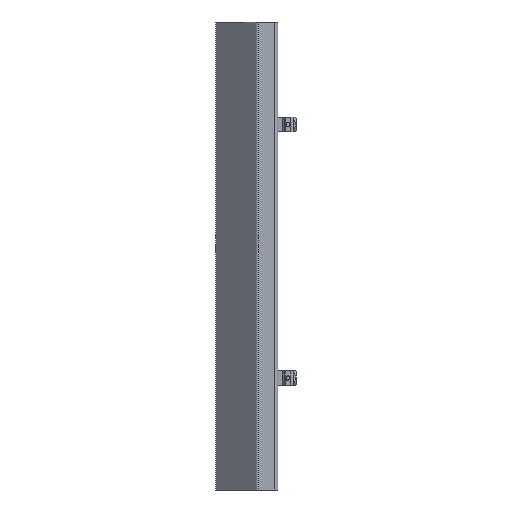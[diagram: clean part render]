
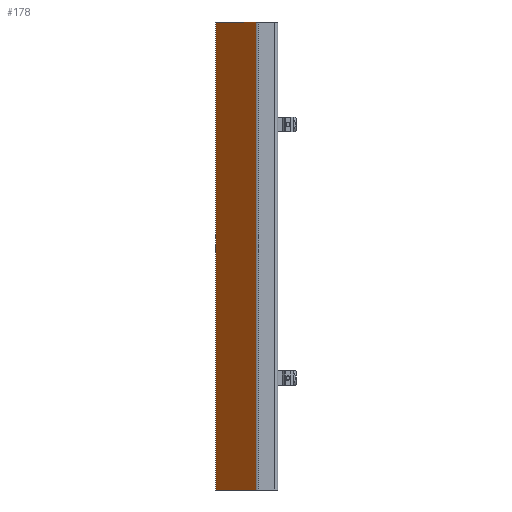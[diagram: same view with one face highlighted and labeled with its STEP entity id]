
A CAD part, left-side view. The second image highlights one B-rep face of the part: STEP entity #178.
In plain terms, the highlighted planar face has unit normal (-0.707, 0.707, 0).
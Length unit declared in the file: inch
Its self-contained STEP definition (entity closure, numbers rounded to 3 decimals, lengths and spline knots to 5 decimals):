
#178 = ADVANCED_FACE ( 'NONE', ( #2885 ), #3673, .T. ) ;
#322 = VERTEX_POINT ( 'NONE', #436 ) ;
#366 = CARTESIAN_POINT ( 'NONE',  ( 1.77132, 3.10845, -12. ) ) ;
#436 = CARTESIAN_POINT ( 'NONE',  ( -0.30607, 1.03107, -12. ) ) ;
#644 = AXIS2_PLACEMENT_3D ( 'NONE', #4553, #4121, #2448 ) ;
#693 = CARTESIAN_POINT ( 'NONE',  ( -0.30607, 1.03107, 0. ) ) ;
#1100 = CARTESIAN_POINT ( 'NONE',  ( 1.77132, 3.10845, 12. ) ) ;
#1208 = LINE ( 'NONE', #366, #4884 ) ;
#1250 = VERTEX_POINT ( 'NONE', #4951 ) ;
#1493 = ORIENTED_EDGE ( 'NONE', *, *, #4598, .T. ) ;
#1506 = ORIENTED_EDGE ( 'NONE', *, *, #5029, .F. ) ;
#1525 = EDGE_CURVE ( 'NONE', #2634, #1250, #3790, .T. ) ;
#1954 = CARTESIAN_POINT ( 'NONE',  ( 1.77132, 3.10845, -12. ) ) ;
#2103 = DIRECTION ( 'NONE',  ( 0.707, 0.707, 0. ) ) ;
#2285 = VERTEX_POINT ( 'NONE', #1954 ) ;
#2448 = DIRECTION ( 'NONE',  ( -0.707, -0.707, 0. ) ) ;
#2457 = LINE ( 'NONE', #693, #3615 ) ;
#2476 = VECTOR ( 'NONE', #2617, 39.37008 ) ;
#2510 = DIRECTION ( 'NONE',  ( 0., 0., 1. ) ) ;
#2546 = ORIENTED_EDGE ( 'NONE', *, *, #3923, .F. ) ;
#2617 = DIRECTION ( 'NONE',  ( -0.707, -0.707, 0. ) ) ;
#2634 = VERTEX_POINT ( 'NONE', #3177 ) ;
#2806 = DIRECTION ( 'NONE',  ( 0., 0., 1. ) ) ;
#2885 = FACE_OUTER_BOUND ( 'NONE', #5505, .T. ) ;
#3177 = CARTESIAN_POINT ( 'NONE',  ( 1.77132, 3.10845, 12. ) ) ;
#3615 = VECTOR ( 'NONE', #2806, 39.37008 ) ;
#3673 = PLANE ( 'NONE',  #644 ) ;
#3790 = LINE ( 'NONE', #5417, #2476 ) ;
#3847 = LINE ( 'NONE', #1100, #5004 ) ;
#3923 = EDGE_CURVE ( 'NONE', #322, #2285, #1208, .T. ) ;
#4121 = DIRECTION ( 'NONE',  ( -0.707, 0.707, 0. ) ) ;
#4553 = CARTESIAN_POINT ( 'NONE',  ( -0.65303, 0.6841, 0. ) ) ;
#4598 = EDGE_CURVE ( 'NONE', #322, #1250, #2457, .T. ) ;
#4867 = ORIENTED_EDGE ( 'NONE', *, *, #1525, .F. ) ;
#4884 = VECTOR ( 'NONE', #2103, 39.37008 ) ;
#4951 = CARTESIAN_POINT ( 'NONE',  ( -0.30607, 1.03107, 12. ) ) ;
#5004 = VECTOR ( 'NONE', #2510, 39.37008 ) ;
#5029 = EDGE_CURVE ( 'NONE', #2285, #2634, #3847, .T. ) ;
#5417 = CARTESIAN_POINT ( 'NONE',  ( -0.32803, 1.0091, 12. ) ) ;
#5505 = EDGE_LOOP ( 'NONE', ( #2546, #1493, #4867, #1506 ) ) ;
